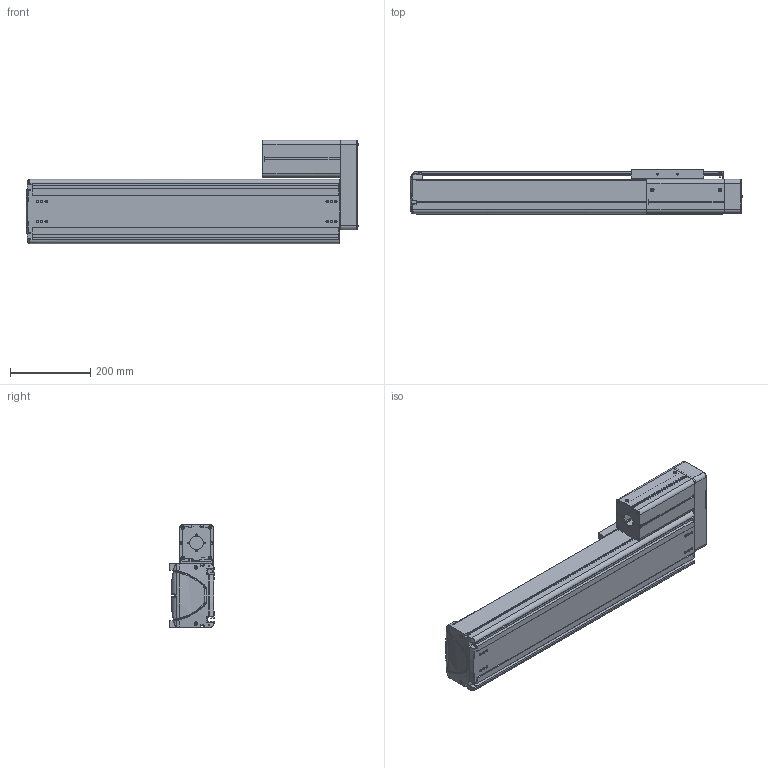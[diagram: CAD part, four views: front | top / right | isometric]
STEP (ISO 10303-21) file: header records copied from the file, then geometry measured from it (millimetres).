
FILE_DESCRIPTION((''),'2;1');
FILE_NAME('BE50F-UR-M_B-50_IGS_PRT','2017-06-18T',(' '),(''),'PRO/ENGINEER BY PARAMETRIC TECHNOLOGY CORPORATION, 2015030','PRO/ENGINEER BY PARAMETRIC TECHNOLOGY CORPORATION, 2015030','');
FILE_SCHEMA(('CONFIG_CONTROL_DESIGN'));
Length unit declared in the file: millimetre
Products named in the file (1): BE50F-UR-M_B-50_IGS_PRT
Bounding box: 825.88 x 110 x 257 mm (x, y, z)
Volume: 4200218.4 mm3; surface area: 1559962.4 mm2
Topology: 2 solids, 115 shells, 2139 faces, 5773 edges, 3761 vertices
Faces by surface type: plane 1000, cylinder 885, cone 115, torus 59, bspline 48, sphere 32
Entity records: 70278 total; most frequent: CARTESIAN_POINT 15814, DIRECTION 11454, ORIENTED_EDGE 11048, EDGE_CURVE 5736, AXIS2_PLACEMENT_3D 4065, VERTEX_POINT 3760, VECTOR 3324, LINE 3324
